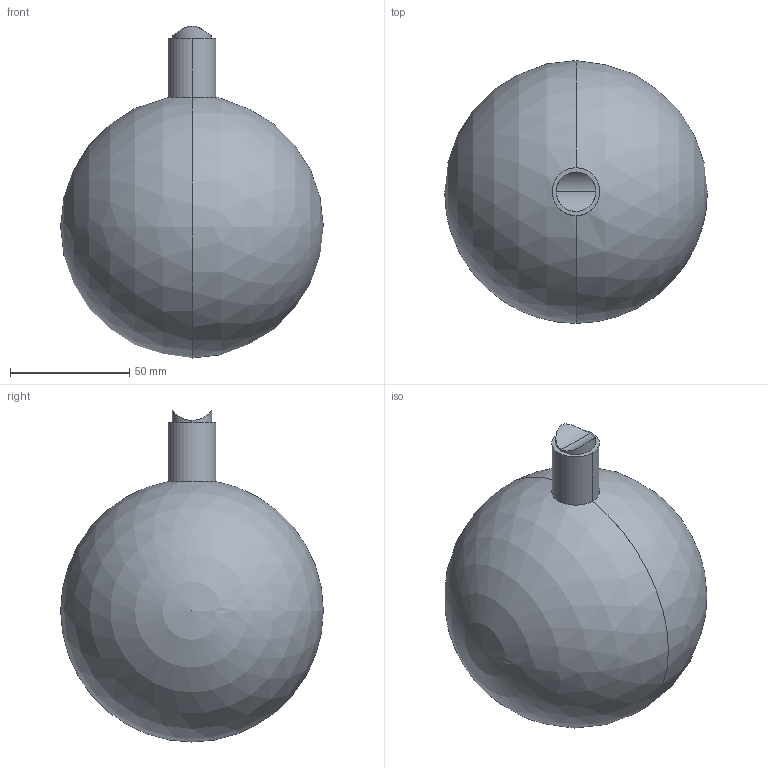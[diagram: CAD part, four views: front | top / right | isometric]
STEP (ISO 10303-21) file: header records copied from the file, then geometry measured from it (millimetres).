
FILE_DESCRIPTION (( 'STEP AP214' ), '1' );
FILE_NAME ('Globe 110.STEP', '2021-09-16T02:14:43', ( '' ), ( '' ), 'SwSTEP 2.0', 'SolidWorks 2017', '' );
FILE_SCHEMA (( 'AUTOMOTIVE_DESIGN' ));
Length unit declared in the file: millimetre
Products named in the file (1): Globe 110
Bounding box: 110 x 110 x 139.01 mm (x, y, z)
Volume: 31438.8 mm3; surface area: 78903.4 mm2
Topology: 3 solids, 3 shells, 21 faces, 45 edges, 28 vertices
Faces by surface type: cylinder 8, plane 5, sphere 4, cone 4
Entity records: 755 total; most frequent: CARTESIAN_POINT 177, DIRECTION 99, ORIENTED_EDGE 70, AXIS2_PLACEMENT_3D 44, EDGE_CURVE 35, EDGE_LOOP 23, CIRCLE 22, VERTEX_POINT 22
